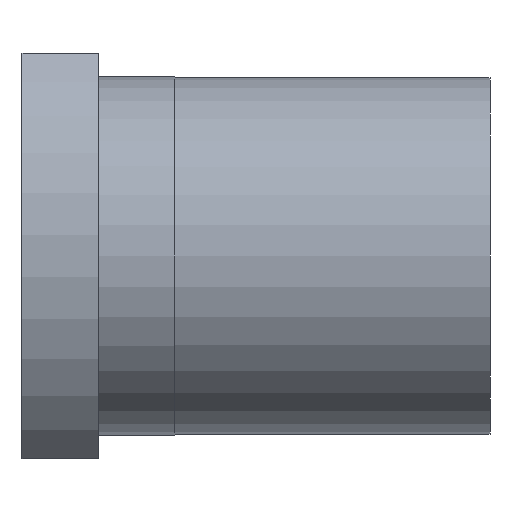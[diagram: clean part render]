
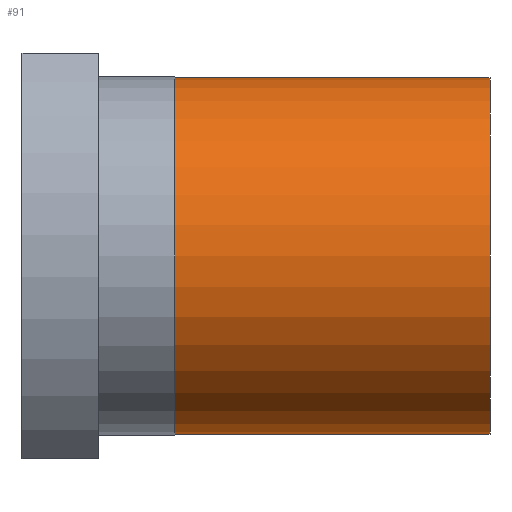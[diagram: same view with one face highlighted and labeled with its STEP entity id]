
A CAD part, front view. The second image highlights one B-rep face of the part: STEP entity #91.
In plain terms, the highlighted cylindrical face has radius 37.375 mm (diameter 74.75 mm), a partial arc.
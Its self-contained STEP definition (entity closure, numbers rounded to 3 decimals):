
#83 = EDGE_LOOP ( 'NONE', ( #275, #261, #402, #323 ) ) ;
#91 = ADVANCED_FACE ( 'NONE', ( #950 ), #951, .T. ) ;
#221 = EDGE_CURVE ( 'NONE', #1848, #334, #593, .T. ) ;
#261 = ORIENTED_EDGE ( 'NONE', *, *, #543, .T. ) ;
#275 = ORIENTED_EDGE ( 'NONE', *, *, #964, .F. ) ;
#311 = EDGE_CURVE ( 'NONE', #752, #334, #975, .T. ) ;
#323 = ORIENTED_EDGE ( 'NONE', *, *, #311, .F. ) ;
#334 = VERTEX_POINT ( 'NONE', #1106 ) ;
#402 = ORIENTED_EDGE ( 'NONE', *, *, #221, .T. ) ;
#491 = CARTESIAN_POINT ( 'NONE',  ( 32., 0., -37.375 ) ) ;
#543 = EDGE_CURVE ( 'NONE', #1781, #1848, #1639, .T. ) ;
#593 = LINE ( 'NONE', #594, #595 ) ;
#594 = CARTESIAN_POINT ( 'NONE',  ( 0., 0., 37.375 ) ) ;
#595 = VECTOR ( 'NONE', #596, 1000. ) ;
#596 = DIRECTION ( 'NONE',  ( -1., 0., 0. ) ) ;
#601 = LINE ( 'NONE', #602, #603 ) ;
#602 = CARTESIAN_POINT ( 'NONE',  ( 0., 0., -37.375 ) ) ;
#603 = VECTOR ( 'NONE', #604, 1000. ) ;
#604 = DIRECTION ( 'NONE',  ( -1., 0., 0. ) ) ;
#752 = VERTEX_POINT ( 'NONE', #491 ) ;
#950 = FACE_OUTER_BOUND ( 'NONE', #83, .T. ) ;
#951 = CYLINDRICAL_SURFACE ( 'NONE', #952, 37.375 ) ;
#952 = AXIS2_PLACEMENT_3D ( 'NONE', #953, #954, #955 ) ;
#953 = CARTESIAN_POINT ( 'NONE',  ( 0., 0., 0. ) ) ;
#954 = DIRECTION ( 'NONE',  ( -1., 0., 0. ) ) ;
#955 = DIRECTION ( 'NONE',  ( 0., 0., 1. ) ) ;
#964 = EDGE_CURVE ( 'NONE', #1781, #752, #601, .T. ) ;
#975 = CIRCLE ( 'NONE', #976, 37.375 ) ;
#976 = AXIS2_PLACEMENT_3D ( 'NONE', #977, #978, #979 ) ;
#977 = CARTESIAN_POINT ( 'NONE',  ( 32., 0., 0. ) ) ;
#978 = DIRECTION ( 'NONE',  ( -1., 0., 0. ) ) ;
#979 = DIRECTION ( 'NONE',  ( 0., 0., 1. ) ) ;
#1033 = CARTESIAN_POINT ( 'NONE',  ( 98., 0., -37.375 ) ) ;
#1106 = CARTESIAN_POINT ( 'NONE',  ( 32., 0., 37.375 ) ) ;
#1141 = CARTESIAN_POINT ( 'NONE',  ( 98., 0., 37.375 ) ) ;
#1639 = CIRCLE ( 'NONE', #1640, 37.375 ) ;
#1640 = AXIS2_PLACEMENT_3D ( 'NONE', #1641, #1642, #1647 ) ;
#1641 = CARTESIAN_POINT ( 'NONE',  ( 98., 0., 0. ) ) ;
#1642 = DIRECTION ( 'NONE',  ( -1., 0., 0. ) ) ;
#1647 = DIRECTION ( 'NONE',  ( 0., 0., 1. ) ) ;
#1781 = VERTEX_POINT ( 'NONE', #1033 ) ;
#1848 = VERTEX_POINT ( 'NONE', #1141 ) ;
